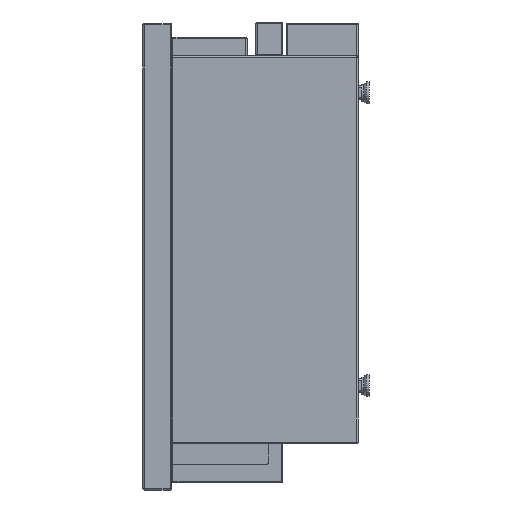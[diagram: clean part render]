
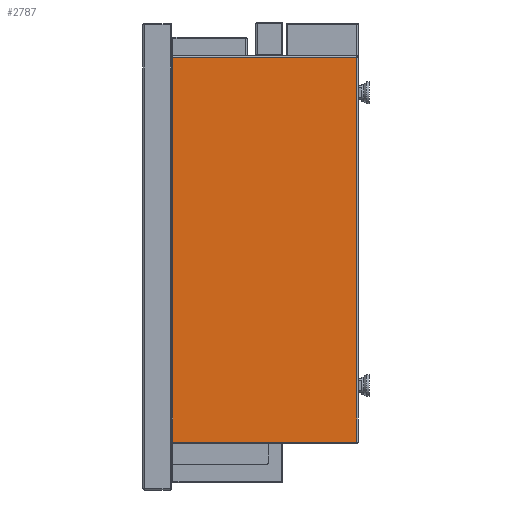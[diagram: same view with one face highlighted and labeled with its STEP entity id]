
A CAD part, left-side view. The second image highlights one B-rep face of the part: STEP entity #2787.
In plain terms, the highlighted planar face has unit normal (-1, 0, 0).
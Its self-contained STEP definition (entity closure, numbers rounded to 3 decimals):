
#588=DIRECTION('',(0.,0.,-1.));
#589=VECTOR('',#588,536.4);
#590=CARTESIAN_POINT('',(-399.,128.2,268.2));
#591=LINE('',#590,#589);
#592=DIRECTION('',(0.,1.,0.));
#593=VECTOR('',#592,256.4);
#594=CARTESIAN_POINT('',(-399.,-128.2,268.2));
#595=LINE('',#594,#593);
#596=DIRECTION('',(0.,0.,1.));
#597=VECTOR('',#596,536.4);
#598=CARTESIAN_POINT('',(-399.,-128.2,-268.2));
#599=LINE('',#598,#597);
#600=DIRECTION('',(0.,-1.,0.));
#601=VECTOR('',#600,256.4);
#602=CARTESIAN_POINT('',(-399.,128.2,-268.2));
#603=LINE('',#602,#601);
#1642=CARTESIAN_POINT('',(-399.,128.2,268.2));
#1643=CARTESIAN_POINT('',(-399.,128.2,-268.2));
#1644=VERTEX_POINT('',#1642);
#1645=VERTEX_POINT('',#1643);
#1646=CARTESIAN_POINT('',(-399.,-128.2,268.2));
#1647=VERTEX_POINT('',#1646);
#1666=CARTESIAN_POINT('',(-399.,-128.2,-268.2));
#1667=VERTEX_POINT('',#1666);
#2773=CARTESIAN_POINT('',(-399.,0.,0.));
#2774=DIRECTION('',(1.,0.,0.));
#2775=DIRECTION('',(0.,0.,-1.));
#2776=AXIS2_PLACEMENT_3D('',#2773,#2774,#2775);
#2777=PLANE('',#2776);
#2779=ORIENTED_EDGE('',*,*,#2778,.F.);
#2781=ORIENTED_EDGE('',*,*,#2780,.F.);
#2783=ORIENTED_EDGE('',*,*,#2782,.F.);
#2784=ORIENTED_EDGE('',*,*,#2766,.F.);
#2785=EDGE_LOOP('',(#2779,#2781,#2783,#2784));
#2786=FACE_OUTER_BOUND('',#2785,.F.);
#2766=EDGE_CURVE('',#1645,#1667,#603,.T.);
#2778=EDGE_CURVE('',#1644,#1645,#591,.T.);
#2780=EDGE_CURVE('',#1647,#1644,#595,.T.);
#2782=EDGE_CURVE('',#1667,#1647,#599,.T.);
#2787=ADVANCED_FACE('',(#2786),#2777,.F.);
